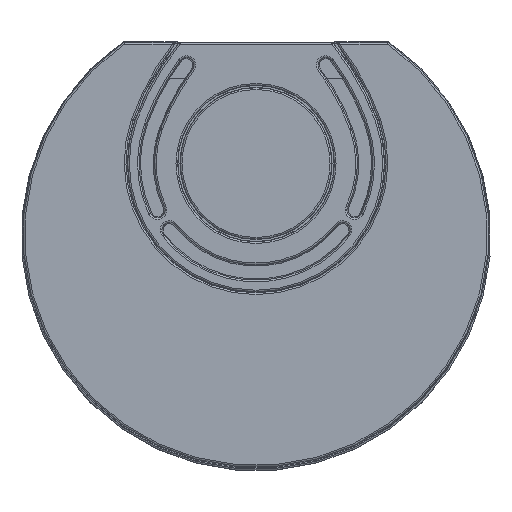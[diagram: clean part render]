
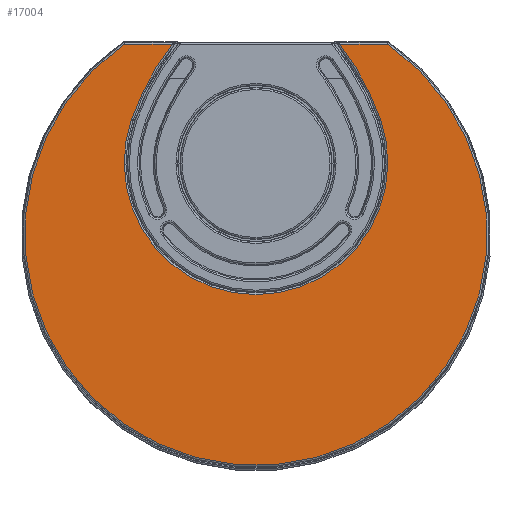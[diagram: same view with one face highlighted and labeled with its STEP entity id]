
A CAD part, top view. The second image highlights one B-rep face of the part: STEP entity #17004.
In plain terms, the highlighted planar face has unit normal (0, 0, 1).
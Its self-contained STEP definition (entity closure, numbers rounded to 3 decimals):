
#1721=CIRCLE('',#18259,152.766);
#1722=CIRCLE('',#18260,302.766);
#1723=CIRCLE('',#18261,2.022);
#1724=CIRCLE('',#18262,267.986);
#1725=CIRCLE('',#18263,2.022);
#1726=CIRCLE('',#18264,302.766);
#2551=ORIENTED_EDGE('',*,*,#7935,.T.);
#2552=ORIENTED_EDGE('',*,*,#7936,.T.);
#2553=ORIENTED_EDGE('',*,*,#7937,.T.);
#2554=ORIENTED_EDGE('',*,*,#7938,.T.);
#2555=ORIENTED_EDGE('',*,*,#7939,.T.);
#2556=ORIENTED_EDGE('',*,*,#7940,.T.);
#2557=ORIENTED_EDGE('',*,*,#7941,.T.);
#2558=ORIENTED_EDGE('',*,*,#7942,.T.);
#7935=EDGE_CURVE('',#10625,#10626,#1721,.F.);
#7936=EDGE_CURVE('',#10626,#10627,#1722,.F.);
#7937=EDGE_CURVE('',#10627,#10628,#12346,.F.);
#7938=EDGE_CURVE('',#10628,#10629,#1723,.T.);
#7939=EDGE_CURVE('',#10629,#10630,#1724,.T.);
#7940=EDGE_CURVE('',#10630,#10631,#1725,.T.);
#7941=EDGE_CURVE('',#10631,#10632,#12347,.F.);
#7942=EDGE_CURVE('',#10632,#10625,#1726,.F.);
#10625=VERTEX_POINT('',#24050);
#10626=VERTEX_POINT('',#24051);
#10627=VERTEX_POINT('',#24053);
#10628=VERTEX_POINT('',#24055);
#10629=VERTEX_POINT('',#24057);
#10630=VERTEX_POINT('',#24059);
#10631=VERTEX_POINT('',#24061);
#10632=VERTEX_POINT('',#24063);
#12346=LINE('',#24054,#13266);
#12347=LINE('',#24062,#13267);
#13266=VECTOR('',#19904,1000.);
#13267=VECTOR('',#19911,1000.);
#14179=EDGE_LOOP('',(#2551,#2552,#2553,#2554,#2555,#2556,#2557,#2558));
#15370=FACE_BOUND('',#14179,.T.);
#16558=PLANE('',#18258);
#17004=ADVANCED_FACE('',(#15370),#16558,.T.);
#18258=AXIS2_PLACEMENT_3D('',#24048,#19898,#19899);
#18259=AXIS2_PLACEMENT_3D('',#24049,#19900,#19901);
#18260=AXIS2_PLACEMENT_3D('',#24052,#19902,#19903);
#18261=AXIS2_PLACEMENT_3D('',#24056,#19905,#19906);
#18262=AXIS2_PLACEMENT_3D('',#24058,#19907,#19908);
#18263=AXIS2_PLACEMENT_3D('',#24060,#19909,#19910);
#18264=AXIS2_PLACEMENT_3D('',#24064,#19912,#19913);
#19898=DIRECTION('',(0.,0.,1.));
#19899=DIRECTION('',(1.,0.,0.));
#19900=DIRECTION('',(0.,0.,1.));
#19901=DIRECTION('',(1.,0.,0.));
#19902=DIRECTION('',(0.,0.,1.));
#19903=DIRECTION('',(1.,0.,0.));
#19904=DIRECTION('',(1.,0.,0.));
#19905=DIRECTION('',(0.,0.,1.));
#19906=DIRECTION('',(1.,0.,0.));
#19907=DIRECTION('',(0.,0.,1.));
#19908=DIRECTION('',(1.,0.,0.));
#19909=DIRECTION('',(0.,0.,1.));
#19910=DIRECTION('',(1.,0.,0.));
#19911=DIRECTION('',(1.,0.,0.));
#19912=DIRECTION('',(0.,0.,1.));
#19913=DIRECTION('',(1.,0.,0.));
#24048=CARTESIAN_POINT('',(152.409,-103.336,1258.));
#24049=CARTESIAN_POINT('',(0.,-238.5,1258.));
#24050=CARTESIAN_POINT('',(144.356,-188.513,1258.));
#24051=CARTESIAN_POINT('',(-144.356,-188.513,1258.));
#24052=CARTESIAN_POINT('',(141.743,-287.582,1258.));
#24053=CARTESIAN_POINT('',(-96.945,-101.314,1258.));
#24054=CARTESIAN_POINT('',(-152.409,-101.314,1258.));
#24055=CARTESIAN_POINT('',(-152.409,-101.314,1258.));
#24056=CARTESIAN_POINT('',(-152.409,-103.336,1258.));
#24057=CARTESIAN_POINT('',(-153.568,-101.679,1258.));
#24058=CARTESIAN_POINT('',(0.,-321.3,1258.));
#24059=CARTESIAN_POINT('',(153.568,-101.679,1258.));
#24060=CARTESIAN_POINT('',(152.409,-103.336,1258.));
#24061=CARTESIAN_POINT('',(152.41,-101.314,1258.));
#24062=CARTESIAN_POINT('',(92.866,-101.314,1258.));
#24063=CARTESIAN_POINT('',(96.945,-101.314,1258.));
#24064=CARTESIAN_POINT('',(-141.743,-287.582,1258.));
